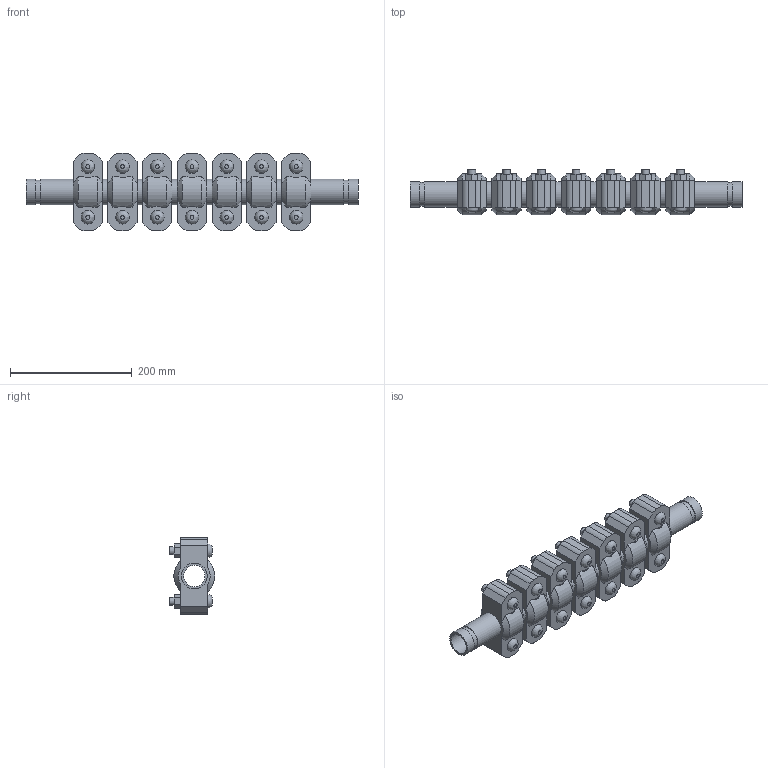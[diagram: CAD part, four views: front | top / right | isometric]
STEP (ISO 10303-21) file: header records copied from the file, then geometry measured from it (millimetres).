
FILE_DESCRIPTION(/* description */ ('VIC EXPANSION JOINT 7 COUPLINGS COMPRESSED STYLE 155 (OGS)','CAx-IF Rec.Pracs.---Representation and Presentation of Product Manufacturing Information (PMI)---4.0---2014-10-13'),/* implementation_level */ '2;1');
FILE_NAME(/* name */ 'C:\Users\kkamble\AppData\Roaming\Autodesk\ApplicationPlugins\Victaulic.Temp\A262\Victaulic_IPS_Expansion Joint_Compressed_7 Couplings_Style 155 (OGS)_1.25 (32).stp',/* time_stamp */ '2021-06-27T00:33:30+02:00',/* author */ ('kkamble'),/* organization */ ('Victaulic'),/* preprocessor_version */ 'ST-DEVELOPER v17.2',/* originating_system */ 'Autodesk Inventor 2019',/* authorisation */ '');
FILE_SCHEMA (('AP242_MANAGED_MODEL_BASED_3D_ENGINEERING_MIM_LF { 1 0 10303 442 1 1 4 }'));
Length unit declared in the file: inch
Products named in the file (4): 155-01.25; Nipple-01.25; Nipple-01.25_1; 077-01.25
Assembly tree (15 placements, depth 2):
  155-01.25
    Nipple-01.25  x2
    Nipple-01.25_1  x6
    077-01.25  x7
Bounding box: 546.1 x 74.93 x 127 mm (x, y, z)
Volume: 1821769.9 mm3; surface area: 431438.2 mm2
Topology: 15 solids, 29 shells, 495 faces, 1213 edges, 850 vertices
Faces by surface type: plane 286, cylinder 167, cone 28, bspline 14
Full cylindrical faces by diameter (mm): 12.7 x28, 14.605 x14, 35.052 x8, 38.989 x16, 42.164 x31
Entity records: 2907 total; most frequent: CARTESIAN_POINT 545, DIRECTION 475, ORIENTED_EDGE 398, EDGE_CURVE 199, AXIS2_PLACEMENT_3D 190, VERTEX_POINT 142, EDGE_LOOP 105, LINE 95
